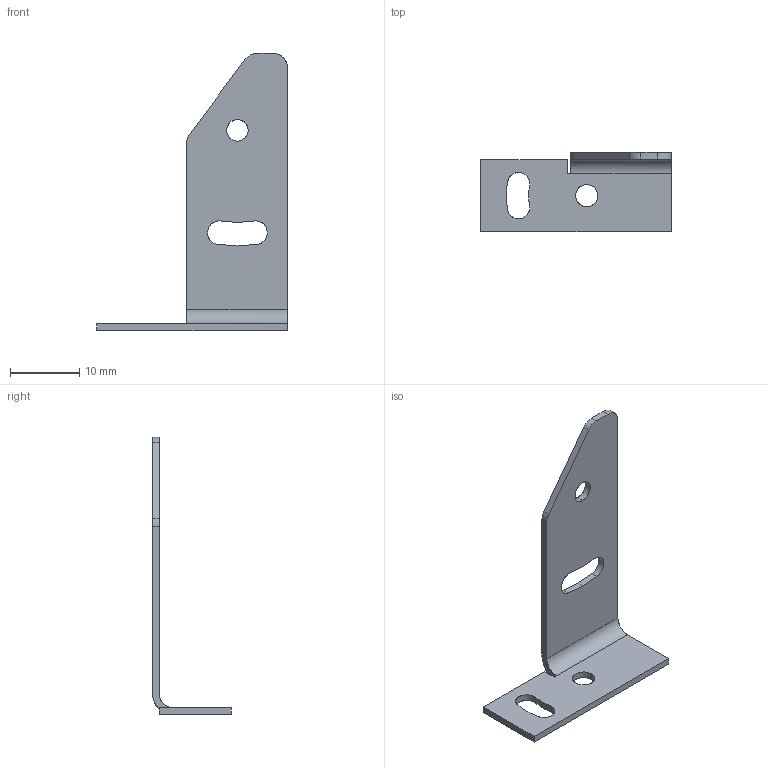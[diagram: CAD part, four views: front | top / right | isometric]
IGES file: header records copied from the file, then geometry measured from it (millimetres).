
Start section: Comment
Global section: file name: 10118798.igs; native system:  By UGS Corp.; preprocessor: XPlus GENERIC/IGES 3.0; author: Author; organization: Title; date: 20080623.104812; units: millimetre
Bounding box: 27.5 x 11.4 x 40 mm (x, y, z)
Surface area: 1671.2 mm2 (no closed solid volume)
Topology: 0 solids, 0 shells, 34 faces, 188 edges, 188 vertices
Faces by surface type: bspline 34
